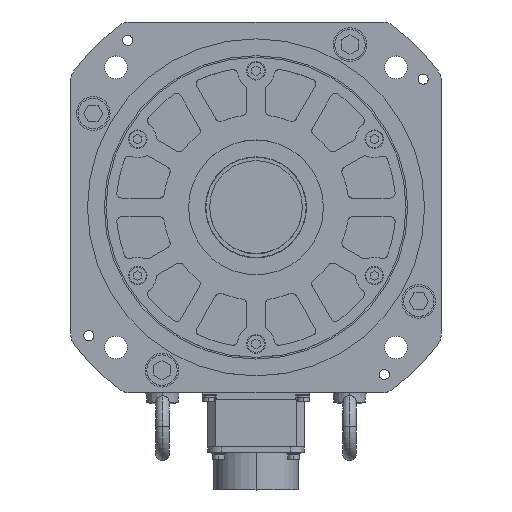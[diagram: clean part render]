
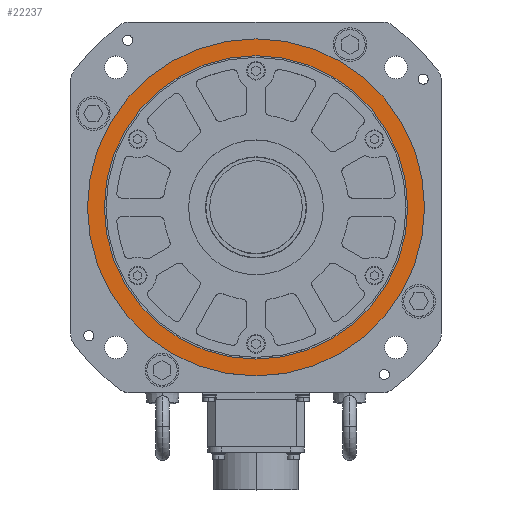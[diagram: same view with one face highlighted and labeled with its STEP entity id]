
A CAD part, top view. The second image highlights one B-rep face of the part: STEP entity #22237.
In plain terms, the highlighted planar face has unit normal (0, 0, 1).
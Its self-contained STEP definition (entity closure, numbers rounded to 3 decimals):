
#2776 = DIRECTION ( 'NONE',  ( 1., 0., 0. ) ) ;
#2777 = DIRECTION ( 'NONE',  ( 0., 0., 1. ) ) ;
#2778 = CARTESIAN_POINT ( 'NONE',  ( 0., 0., 4. ) ) ;
#2779 = AXIS2_PLACEMENT_3D ( 'NONE', #2778, #2777, #2776 ) ;
#2780 = CIRCLE ( 'NONE', #2779, 90. ) ;
#7269 = CARTESIAN_POINT ( 'NONE',  ( 100., 0., 4. ) ) ;
#7296 = CARTESIAN_POINT ( 'NONE',  ( -100., 0., 4. ) ) ;
#7382 = DIRECTION ( 'NONE',  ( 1., 0., 0. ) ) ;
#7383 = DIRECTION ( 'NONE',  ( 0., 0., 1. ) ) ;
#7384 = CARTESIAN_POINT ( 'NONE',  ( 0., 0., 4. ) ) ;
#7385 = AXIS2_PLACEMENT_3D ( 'NONE', #7384, #7383, #7382 ) ;
#7386 = CIRCLE ( 'NONE', #7385, 100. ) ;
#15386 = CARTESIAN_POINT ( 'NONE',  ( 90., 0., 4. ) ) ;
#15387 = DIRECTION ( 'NONE',  ( 1., 0., 0. ) ) ;
#15388 = DIRECTION ( 'NONE',  ( 0., 0., 1. ) ) ;
#15389 = CARTESIAN_POINT ( 'NONE',  ( 0., 0., 4. ) ) ;
#15390 = AXIS2_PLACEMENT_3D ( 'NONE', #15389, #15388, #15387 ) ;
#15391 = CIRCLE ( 'NONE', #15390, 90. ) ;
#15459 = CARTESIAN_POINT ( 'NONE',  ( -90., 0., 4. ) ) ;
#21091 = ORIENTED_EDGE ( 'NONE', *, *, #23815, .F. ) ;
#22064 = EDGE_LOOP ( 'NONE', ( #21091, #23525 ) ) ;
#22091 = ORIENTED_EDGE ( 'NONE', *, *, #26359, .T. ) ;
#22155 = EDGE_CURVE ( 'NONE', #26309, #26319, #40218, .T. ) ;
#22189 = ORIENTED_EDGE ( 'NONE', *, *, #22155, .T. ) ;
#22212 = EDGE_LOOP ( 'NONE', ( #22189, #22091 ) ) ;
#22237 = ADVANCED_FACE ( 'NONE', ( #40407, #40406 ), #40405, .T. ) ;
#23525 = ORIENTED_EDGE ( 'NONE', *, *, #30337, .F. ) ;
#23815 = EDGE_CURVE ( 'NONE', #30338, #30361, #2780, .T. ) ;
#26309 = VERTEX_POINT ( 'NONE', #7296 ) ;
#26319 = VERTEX_POINT ( 'NONE', #7269 ) ;
#26359 = EDGE_CURVE ( 'NONE', #26319, #26309, #7386, .T. ) ;
#30337 = EDGE_CURVE ( 'NONE', #30361, #30338, #15391, .T. ) ;
#30338 = VERTEX_POINT ( 'NONE', #15386 ) ;
#30361 = VERTEX_POINT ( 'NONE', #15459 ) ;
#40214 = DIRECTION ( 'NONE',  ( 1., 0., 0. ) ) ;
#40215 = DIRECTION ( 'NONE',  ( 0., 0., 1. ) ) ;
#40216 = CARTESIAN_POINT ( 'NONE',  ( 0., 0., 4. ) ) ;
#40217 = AXIS2_PLACEMENT_3D ( 'NONE', #40216, #40215, #40214 ) ;
#40218 = CIRCLE ( 'NONE', #40217, 100. ) ;
#40401 = DIRECTION ( 'NONE',  ( 1., 0., 0. ) ) ;
#40402 = DIRECTION ( 'NONE',  ( 0., 0., 1. ) ) ;
#40403 = CARTESIAN_POINT ( 'NONE',  ( 0., 0., 4. ) ) ;
#40404 = AXIS2_PLACEMENT_3D ( 'NONE', #40403, #40402, #40401 ) ;
#40405 = PLANE ( 'NONE',  #40404 ) ;
#40406 = FACE_BOUND ( 'NONE', #22064, .T. ) ;
#40407 = FACE_OUTER_BOUND ( 'NONE', #22212, .T. ) ;
